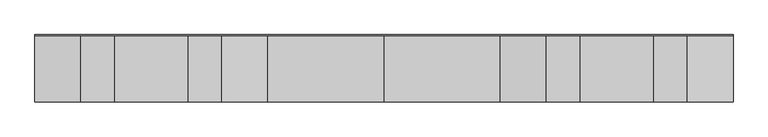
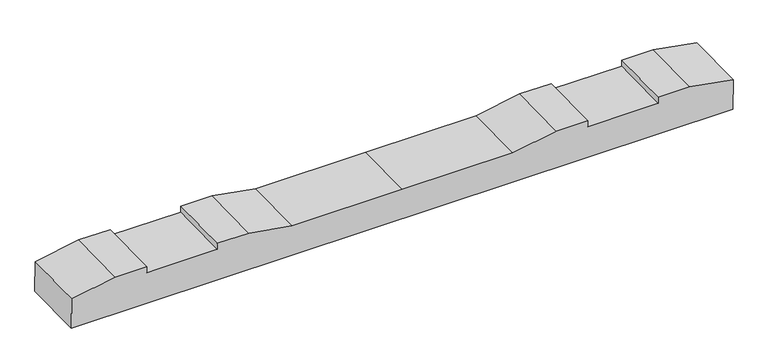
"""IFC4 building model written with IfcOpenShell, lengths in millimetres: proxy geometry, 轨枕-立面角度 : 轨枕-立面角度."""

from ifc_helpers import new_model, si_unit, frame, origin, place, context, project, spatial, polyline, outline, extrude, source, transform, mapped, element, save


def generic_models_e3718a07(model_context):
    return source(origin(), model_context, "Body", "SweptSolid", [
        extrude(outline(polyline([(0.0, 0.0), (2099.7669328, 0.0), (2099.7669328, -100.0206889), (1961.8834664, -124.5), (1861.8834664, -124.5), (1861.8834664, -104.5), (1637.8834664, -104.5), (1637.8834664, -124.5), (1537.8834664, -124.5), (1399.8834664, -100.0), (1049.8834664, -100.0), (699.8834664, -100.0), (561.8834664, -124.5), (461.8834664, -124.5), (461.8834664, -104.5), (237.8834664, -104.5), (237.8834664, -124.5), (137.8834664, -124.5), (0.0, -100.0206889), (0.0, 0.0)])), frame((-1049.8834664, -97.9678722, -106.4074528), z_axis=(0.0, 0.9998143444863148, 0.019268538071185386), x_axis=(1.0, 0.0, 0.0)), (0.0, 0.0, 1.0), 200.0),
    ])


if __name__ == "__main__":
    model = new_model("IFC4")
    model_context = context("Model", 3, world=origin())
    ifc_project = project(units=[si_unit("LENGTHUNIT", "METRE", prefix="MILLI")], contexts=[model_context])
    site = spatial("IfcSite", under=ifc_project)
    building = spatial("IfcBuilding", under=site)
    placement = place(None, origin())
    generic_models_shape = generic_models_e3718a07(model_context)
    element("IfcBuildingElementProxy", 1, Name="轨枕-立面角度 : 轨枕-立面角度", ObjectType="轨枕-立面角度 : 轨枕-立面角度", at=placement, inside=building, context=model_context, shape_type="MappedRepresentation", body=[
        mapped(generic_models_shape, transform((0.0, 0.0, 0.0), x_axis=(1.0, 0.0, 0.0), y_axis=(0.0, 1.0, 0.0), z_axis=(0.0, 0.0, 1.0))),
    ])
    save(model, "model.ifc")
